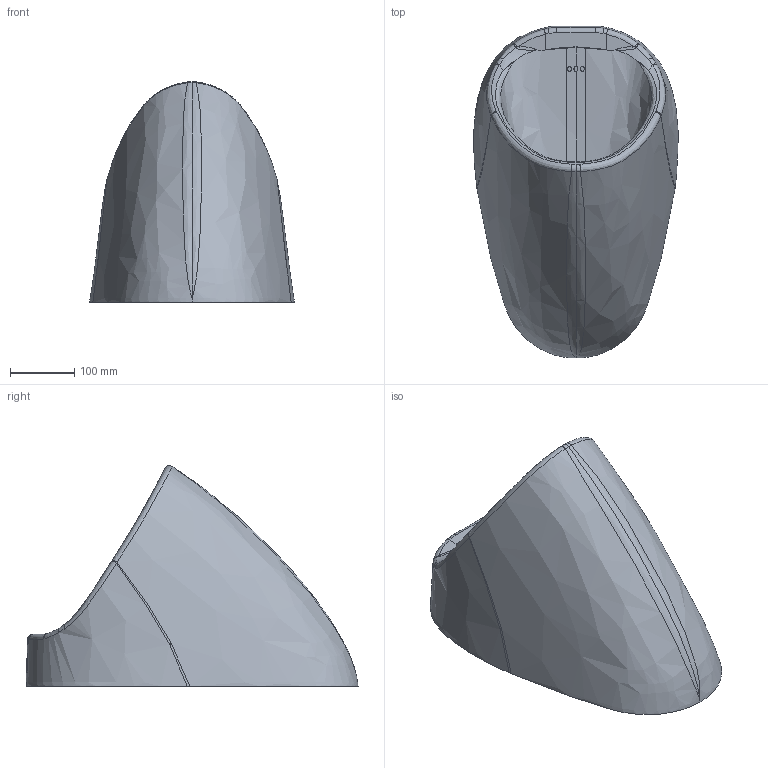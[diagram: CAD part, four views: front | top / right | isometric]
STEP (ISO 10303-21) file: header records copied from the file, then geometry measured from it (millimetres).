
FILE_DESCRIPTION (( 'STEP AP203' ), '1' );
FILE_NAME ('TP635 Model.STEP', '2022-04-25T08:30:11', ( '' ), ( '' ), 'SwSTEP 2.0', 'SolidWorks 2021', '' );
FILE_SCHEMA (( 'CONFIG_CONTROL_DESIGN' ));
Products named in the file (1): TP635 Model
Bounding box: 317.65 x 514.94 x 342.14 mm (x, y, z)
Surface area: 722167.7 mm2 (no closed solid volume)
Topology: 0 solids, 7 shells, 330 faces, 817 edges, 491 vertices
Faces by surface type: bspline 277, plane 26, cylinder 18, cone 9
Entity records: 91202 total; most frequent: CARTESIAN_POINT 85651, ORIENTED_EDGE 1602, EDGE_CURVE 802, B_SPLINE_CURVE_WITH_KNOTS 593, VERTEX_POINT 491, DIRECTION 420, EDGE_LOOP 336, FACE_OUTER_BOUND 330
